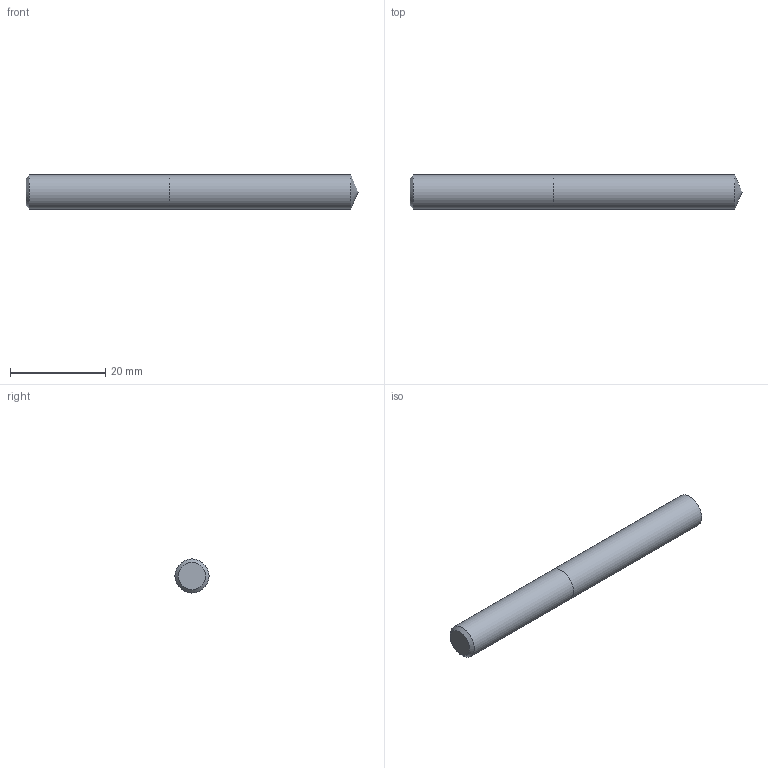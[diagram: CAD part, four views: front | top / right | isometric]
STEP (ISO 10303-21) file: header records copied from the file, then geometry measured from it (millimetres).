
FILE_DESCRIPTION (( 'STEP AP214' ), '1' );
FILE_NAME ('03-2417.STEP', '2022-06-03T07:29:47', ( 'USER' ), ( '' ), 'SwSTEP 2.0', 'SolidWorks 2018', '' );
FILE_SCHEMA (( 'AUTOMOTIVE_DESIGN' ));
Length unit declared in the file: inch
Products named in the file (1): 03-2417
Bounding box: 69.74 x 7.14 x 7.14 mm (x, y, z)
Volume: 2750.5 mm3; surface area: 1685.6 mm2
Topology: 2 solids, 2 shells, 7 faces, 11 edges, 7 vertices
Faces by surface type: plane 3, cylinder 2, cone 2
Full cylindrical faces by diameter (mm): 7.144 x2
Entity records: 214 total; most frequent: DIRECTION 26, CARTESIAN_POINT 18, AXIS2_PLACEMENT_3D 13, ORIENTED_EDGE 10, EDGE_LOOP 10, FACE_OUTER_BOUND 9, UNCERTAINTY_MEASURE_WITH_UNIT 7, ADVANCED_FACE 7
